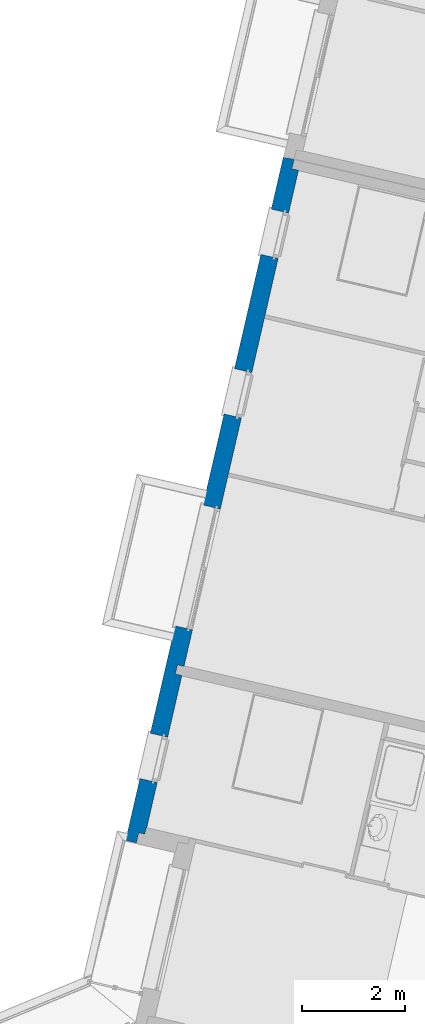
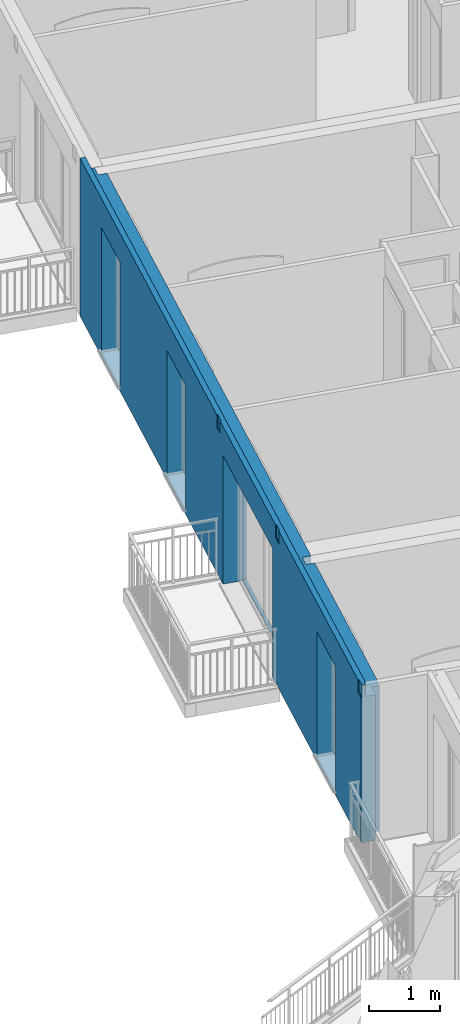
# One storey, part 23 of 90: 1 wall, 4 openings.
"""IFC2X3 building model written with IfcOpenShell, lengths in metres."""

from ifc_helpers import new_model, entity, si_unit, converted_unit, derived_unit, money_unit, direction, frame, origin_with_axes, place, context, subcontext, project, spatial, faceted_brep, material, material_list, type_object, element, save


model = new_model("IFC2X3")

# Units and contexts
model_context = context("Model", 3, precision=1e-05, world=origin_with_axes(), true_north=direction((0.0, 1.0)))
body_context = subcontext(model_context, "Body", "Model", "MODEL_VIEW")
ifc_project = project(units=[si_unit("LENGTHUNIT", "METRE"), si_unit("AREAUNIT", "SQUARE_METRE"), si_unit("VOLUMEUNIT", "CUBIC_METRE"), converted_unit("PLANEANGLEUNIT", "DEGREE", entity("IfcPlaneAngleMeasure", 0.0174532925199), si_unit("PLANEANGLEUNIT", "RADIAN"), dimensions=[0, 0, 0, 0, 0, 0, 0]), si_unit("SOLIDANGLEUNIT", "STERADIAN"), money_unit("EUR"), converted_unit("TIMEUNIT", "Year", entity("IfcTimeMeasure", 31556926.0), si_unit("TIMEUNIT", "SECOND"), dimensions=[0, 0, 1, 0, 0, 0, 0]), si_unit("MASSUNIT", "GRAM", prefix="KILO"), si_unit("THERMODYNAMICTEMPERATUREUNIT", "DEGREE_CELSIUS"), si_unit("LUMINOUSINTENSITYUNIT", "LUMEN"), si_unit("ENERGYUNIT", "JOULE", prefix="MEGA"), derived_unit("THERMALCONDUCTANCEUNIT", [(si_unit("POWERUNIT", "WATT"), 1), (si_unit("LENGTHUNIT", "METRE"), -1), (si_unit("THERMODYNAMICTEMPERATUREUNIT", "KELVIN"), -1)]), derived_unit("SPECIFICHEATCAPACITYUNIT", [(si_unit("ENERGYUNIT", "JOULE"), 1), (si_unit("MASSUNIT", "GRAM", prefix="KILO"), -1), (si_unit("THERMODYNAMICTEMPERATUREUNIT", "KELVIN"), -1)]), derived_unit("MASSDENSITYUNIT", [(si_unit("MASSUNIT", "GRAM", prefix="KILO"), 1), (si_unit("VOLUMEUNIT", "CUBIC_METRE"), -1)])], contexts=[model_context])

# Site, building, storey
site_placement = place(None, origin_with_axes())
site = spatial("IfcSite", under=ifc_project, at=site_placement, Name="Site", CompositionType="ELEMENT")
building_placement = place(site_placement, origin_with_axes())
building = spatial("IfcBuilding", under=site, at=building_placement, Name="Bâtiment", CompositionType="ELEMENT")
storey_placement = place(building_placement, frame((0.0, 0.0, 2.72), z_axis=(0.0, 0.0, 1.0), x_axis=(1.0, 0.0, 0.0)))
storey = spatial("IfcBuildingStorey", under=building, at=storey_placement, Name="R+1", CompositionType="ELEMENT", Elevation=2.72)

# Wall, openings
ifc_material_1 = material(Name="Finition int - Plaque de plâtre")
ifc_material_2 = material(Name="Isolation - Polystyrène extrudé")
ifc_material_3 = material(Name="Bloc ELITHERM")
ifc_material_4 = material(Name="Isolation - Polystyrène expansé")
ifc_material_5 = material(Name="Mortier")
ifc_material_6 = material(Name="Béton cellulaire")
ifc_material_7 = material(Name="Finition ext - Crépis")
ifc_material_list = material_list([ifc_material_1, ifc_material_2, ifc_material_3, ifc_material_4, ifc_material_5, ifc_material_6, ifc_material_7])
wall_type = type_object("IfcWallType", Name="Mur ALKERN + planelle 21 345 x 2720", PredefinedType="USERDEFINED")
wall_placement = place(storey_placement, frame((-16.9185229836, 3.99020048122, 0.0), z_axis=(0.0, 0.0, 1.0), x_axis=(-0.224876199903, -0.974387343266, 0.0)))
wall = element("IfcWall", 1, at=wall_placement, inside=storey, type_object=wall_type, material=ifc_material_list, Name="Mue bloc ALKERN isolé", ObjectType="SOLIDWALL", context=body_context, shape_type="Brep", body=[
    faceted_brep([(13.256602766, 0.34499998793, 0.0), (10.2201355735, 0.34499998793, 0.0), (10.2201355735, 0.34499998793, 2.51000000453), (13.256602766, 0.34499998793, 2.51), (12.3475578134, 0.34499998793, 2.22), (12.3475578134, 0.34499998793, 2.4), (11.4475578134, 0.34499998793, 2.4), (11.4475578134, 0.34499998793, 2.22), (11.4475578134, 0.34499998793, 0.12), (12.3475578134, 0.34499998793, 0.12), (13.256602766, 0.335000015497, 0.0), (10.2201355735, 0.335000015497, 0.0), (10.2201355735, 0.335000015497, 2.51000000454), (13.256602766, 0.335000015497, 2.51), (12.3475578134, 0.335000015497, 2.22), (12.3475578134, 0.335000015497, 2.4), (11.4475578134, 0.335000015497, 2.4), (11.4475578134, 0.335000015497, 2.22), (11.4475578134, 0.335000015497, 0.12), (12.3475578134, 0.335000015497, 0.12)], [[[0, 1, 2, 3], [4, 5, 6, 7, 8, 9]], [[10, 11, 1, 0]], [[2, 1, 11, 12]], [[3, 2, 12, 13]], [[3, 13, 10, 0]], [[5, 4, 14, 15]], [[6, 5, 15, 16]], [[7, 6, 16, 17]], [[7, 17, 18, 8]], [[8, 18, 19, 9]], [[14, 4, 9, 19]], [[13, 12, 11, 10], [15, 14, 19, 18, 17, 16]]]),
    faceted_brep([(0.180000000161, 0.34499998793, 2.50999999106), (10.0401355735, 0.34499998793, 2.51000000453), (10.0401355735, 0.34499998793, 0.0), (0.180000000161, 0.34499998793, 0.0), (9.31319621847, 0.34499998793, 2.22), (9.31319621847, 0.34499998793, 2.4), (6.91319621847, 0.34499998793, 2.4), (6.91319621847, 0.34499998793, 2.22), (6.91319621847, 0.34499998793, 0.02), (9.31319621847, 0.34499998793, 0.02), (5.1028669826, 0.34499998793, 2.22), (5.1028669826, 0.34499998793, 2.4), (4.2028669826, 0.34499998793, 2.4), (4.2028669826, 0.34499998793, 2.22), (4.2028669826, 0.34499998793, 0.12), (5.1028669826, 0.34499998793, 0.12), (1.93277950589, 0.34499998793, 2.22), (1.93277950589, 0.34499998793, 2.4), (1.03277950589, 0.34499998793, 2.4), (1.03277950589, 0.34499998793, 2.22), (1.03277950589, 0.34499998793, 0.12), (1.93277950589, 0.34499998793, 0.12), (0.180000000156, 0.335000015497, 2.50999999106), (10.0401355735, 0.335000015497, 2.51000000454), (10.0401355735, 0.335000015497, 0.0), (0.180000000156, 0.335000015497, 0.0), (9.31319621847, 0.335000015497, 2.22), (9.31319621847, 0.335000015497, 2.4), (6.91319621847, 0.335000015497, 2.4), (6.91319621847, 0.335000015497, 2.22), (6.91319621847, 0.335000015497, 0.02), (9.31319621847, 0.335000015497, 0.02), (5.1028669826, 0.335000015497, 2.22), (5.1028669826, 0.335000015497, 2.4), (4.2028669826, 0.335000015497, 2.4), (4.2028669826, 0.335000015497, 2.22), (4.2028669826, 0.335000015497, 0.12), (5.1028669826, 0.335000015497, 0.12), (1.93277950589, 0.335000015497, 2.22), (1.93277950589, 0.335000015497, 2.4), (1.03277950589, 0.335000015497, 2.4), (1.03277950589, 0.335000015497, 2.22), (1.03277950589, 0.335000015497, 0.12), (1.93277950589, 0.335000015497, 0.12)], [[[0, 1, 2, 3], [4, 5, 6, 7, 8, 9], [10, 11, 12, 13, 14, 15], [16, 17, 18, 19, 20, 21]], [[22, 23, 1, 0]], [[1, 23, 24, 2]], [[3, 2, 24, 25]], [[0, 3, 25, 22]], [[5, 4, 26, 27]], [[6, 5, 27, 28]], [[7, 6, 28, 29]], [[7, 29, 30, 8]], [[8, 30, 31, 9]], [[26, 4, 9, 31]], [[32, 33, 11, 10]], [[33, 34, 12, 11]], [[34, 35, 13, 12]], [[36, 14, 13, 35]], [[37, 15, 14, 36]], [[15, 37, 32, 10]], [[17, 16, 38, 39]], [[18, 17, 39, 40]], [[19, 18, 40, 41]], [[19, 41, 42, 20]], [[20, 42, 43, 21]], [[38, 16, 21, 43]], [[25, 24, 23, 22], [27, 26, 31, 30, 29, 28], [33, 32, 37, 36, 35, 34], [39, 38, 43, 42, 41, 40]]]),
    faceted_brep([(11.4475578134, 0.245, 0.12), (11.4475578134, 0.286, 0.12), (11.4475578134, 0.335000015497, 0.12), (11.4475578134, 0.335000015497, 2.22), (11.4475578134, 0.245, 2.22), (11.4475578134, 0.215000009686, 0.12), (11.4475578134, 0.215000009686, 0.06), (11.4475578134, 0.286, 0.06), (12.3475578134, 0.286, 0.12), (12.3475578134, 0.335000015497, 0.12), (10.2201355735, 0.335000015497, 2.51000000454), (13.3766027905, 0.335000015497, 2.50999999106), (13.3766027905, 0.335000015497, 0.0), (10.2201355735, 0.335000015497, 0.0), (12.3475578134, 0.335000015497, 2.22), (12.3475578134, 0.335000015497, 2.4), (11.4475578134, 0.335000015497, 2.4), (11.4475578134, 0.215, 2.4), (11.4475578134, 0.215, 2.22), (10.2201355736, 0.215000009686, 0.0), (13.3766027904, 0.215000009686, 0.0), (13.3766027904, 0.215000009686, 2.50999999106), (10.2201355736, 0.215000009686, 2.51000000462), (12.3475578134, 0.215, 2.4), (12.3475578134, 0.215, 2.22), (12.3475578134, 0.215000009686, 0.12), (12.3475578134, 0.215000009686, 0.06), (12.3475578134, 0.286, 0.06), (12.3475578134, 0.245, 0.12), (12.3475578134, 0.245, 2.22)], [[[0, 1, 2, 3, 4]], [[1, 0, 5, 6, 7]], [[1, 8, 9, 2]], [[10, 11, 12, 13], [3, 2, 9, 14, 15, 16]], [[17, 18, 4, 3, 16]], [[5, 0, 4, 18]], [[19, 20, 21, 22], [6, 5, 18, 17, 23, 24, 25, 26]], [[6, 26, 27, 7]], [[8, 1, 7, 27]], [[8, 28, 29, 14, 9]], [[22, 21, 11, 10]], [[20, 12, 11, 21]], [[13, 12, 20, 19]], [[19, 22, 10, 13]], [[29, 24, 23, 15, 14]], [[15, 23, 17, 16]], [[28, 25, 24, 29]], [[28, 8, 27, 26, 25]]]),
    faceted_brep([(1.03277950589, 0.245, 0.12), (1.03277950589, 0.286, 0.12), (1.03277950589, 0.335000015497, 0.12), (1.03277950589, 0.335000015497, 2.22), (1.03277950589, 0.245, 2.22), (1.03277950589, 0.215000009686, 0.12), (1.03277950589, 0.215, 0.06), (1.03277950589, 0.286, 0.06), (1.93277950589, 0.286, 0.12), (1.93277950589, 0.335000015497, 0.12), (10.0401355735, 0.335000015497, 0.0), (0.180000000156, 0.335000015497, 0.0), (0.180000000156, 0.335000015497, 2.50999999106), (10.0401355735, 0.335000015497, 2.51000000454), (6.91319621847, 0.335000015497, 2.22), (6.91319621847, 0.335000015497, 0.02), (9.31319621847, 0.335000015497, 0.02), (9.31319621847, 0.335000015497, 2.22), (9.31319621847, 0.335000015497, 2.4), (6.91319621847, 0.335000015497, 2.4), (4.2028669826, 0.335000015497, 2.22), (4.2028669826, 0.335000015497, 0.12), (5.1028669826, 0.335000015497, 0.12), (5.1028669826, 0.335000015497, 2.22), (5.1028669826, 0.335000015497, 2.4), (4.2028669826, 0.335000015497, 2.4), (1.93277950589, 0.335000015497, 2.22), (1.93277950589, 0.335000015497, 2.4), (1.03277950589, 0.335000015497, 2.4), (1.03277950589, 0.215, 2.4), (1.03277950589, 0.215, 2.22), (6.91319621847, 0.215000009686, 0.0), (6.91319621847, 0.215000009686, 0.02), (6.91319621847, 0.215, 2.22), (6.91319621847, 0.215, 2.4), (9.31319621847, 0.215, 2.4), (9.31319621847, 0.215, 2.22), (9.31319621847, 0.215000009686, 0.02), (9.31319621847, 0.215000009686, 0.0), (10.0401355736, 0.215000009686, 0.0), (10.0401355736, 0.215000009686, 2.51000000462), (0.1800000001, 0.215000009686, 2.50999999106), (0.1800000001, 0.215000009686, 0.0), (5.1028669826, 0.215, 2.4), (5.1028669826, 0.215, 2.22), (5.1028669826, 0.215000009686, 0.12), (5.1028669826, 0.215, 0.06), (4.2028669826, 0.215, 0.06), (4.2028669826, 0.215000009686, 0.12), (4.2028669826, 0.215, 2.22), (4.2028669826, 0.215, 2.4), (1.93277950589, 0.215, 2.4), (1.93277950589, 0.215, 2.22), (1.93277950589, 0.215000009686, 0.12), (1.93277950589, 0.215, 0.06), (1.93277950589, 0.286, 0.06), (1.93277950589, 0.245, 0.12), (1.93277950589, 0.245, 2.22), (6.91319621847, 0.286, 0.0), (9.31319621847, 0.286, 0.0), (6.91319621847, 0.286, 0.02), (6.91319621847, 0.245, 2.22), (6.91319621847, 0.245, 0.02), (9.31319621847, 0.286, 0.02), (9.31319621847, 0.245, 0.02), (9.31319621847, 0.245, 2.22), (4.2028669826, 0.245, 2.22), (4.2028669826, 0.245, 0.12), (4.2028669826, 0.286, 0.12), (5.1028669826, 0.286, 0.12), (5.1028669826, 0.245, 0.12), (5.1028669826, 0.245, 2.22), (5.1028669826, 0.286, 0.06), (4.2028669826, 0.286, 0.06)], [[[0, 1, 2, 3, 4]], [[1, 0, 5, 6, 7]], [[1, 8, 9, 2]], [[10, 11, 12, 13], [14, 15, 16, 17, 18, 19], [20, 21, 22, 23, 24, 25], [3, 2, 9, 26, 27, 28]], [[29, 30, 4, 3, 28]], [[5, 0, 4, 30]], [[31, 32, 33, 34, 35, 36, 37, 38, 39, 40, 41, 42], [43, 44, 45, 46, 47, 48, 49, 50], [6, 5, 30, 29, 51, 52, 53, 54]], [[6, 54, 55, 7]], [[8, 1, 7, 55]], [[8, 56, 57, 26, 9]], [[58, 31, 42, 11, 10, 39, 38, 59]], [[42, 41, 12, 11]], [[13, 12, 41, 40]], [[39, 10, 13, 40]], [[60, 15, 14, 61, 62]], [[60, 63, 16, 15]], [[64, 65, 17, 16, 63]], [[36, 35, 18, 17, 65]], [[18, 35, 34, 19]], [[33, 61, 14, 19, 34]], [[20, 66, 67, 68, 21]], [[68, 69, 22, 21]], [[23, 22, 69, 70, 71]], [[24, 23, 71, 44, 43]], [[24, 43, 50, 25]], [[20, 25, 50, 49, 66]], [[57, 52, 51, 27, 26]], [[27, 51, 29, 28]], [[62, 32, 31, 58, 60]], [[32, 62, 61, 33]], [[64, 37, 36, 65]], [[63, 59, 38, 37, 64]], [[70, 45, 44, 71]], [[46, 45, 70, 69, 72]], [[47, 46, 72, 73]], [[47, 73, 68, 67, 48]], [[48, 67, 66, 49]], [[56, 53, 52, 57]], [[56, 8, 55, 54, 53]], [[63, 60, 58, 59]], [[69, 68, 73, 72]]]),
    faceted_brep([(1.03277950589, 0.015, 0.12), (1.03277950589, 0.214999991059, 0.12), (1.03277950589, 0.214999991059, 2.22), (1.03277950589, 0.015, 2.22), (1.03277950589, 0.214999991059, 0.06), (1.03277950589, 0.015, 0.06), (1.00214503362e-10, 0.214999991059, 0.0), (1.00212727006e-10, 0.214999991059, 2.50999999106), (13.5766027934, 0.214999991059, 2.50999999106), (13.5766027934, 0.214999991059, 0.0), (9.31319621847, 0.214999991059, 0.0), (9.31319621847, 0.214999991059, 0.02), (9.31319621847, 0.214999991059, 2.22), (6.91319621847, 0.214999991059, 2.22), (6.91319621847, 0.214999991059, 0.02), (6.91319621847, 0.214999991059, 0.0), (5.1028669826, 0.214999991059, 0.06), (5.1028669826, 0.214999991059, 0.12), (5.1028669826, 0.214999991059, 2.22), (4.2028669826, 0.214999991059, 2.22), (4.2028669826, 0.214999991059, 0.12), (4.2028669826, 0.214999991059, 0.06), (12.3475578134, 0.214999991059, 0.06), (12.3475578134, 0.214999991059, 0.12), (12.3475578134, 0.214999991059, 2.22), (11.4475578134, 0.214999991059, 2.22), (11.4475578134, 0.214999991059, 0.12), (11.4475578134, 0.214999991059, 0.06), (1.93277950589, 0.214999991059, 0.06), (1.93277950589, 0.214999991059, 0.12), (1.93277950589, 0.214999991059, 2.22), (1.93277950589, 0.015, 2.22), (6.91319621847, 0.015, 2.22), (9.31319621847, 0.015, 2.22), (9.31319621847, 0.015, 0.02), (9.31319621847, 0.015, 0.0), (13.5766027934, 0.015, 0.0), (13.5766027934, 0.015, 2.50999999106), (0.0, 0.015, 2.50999999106), (0.0, 0.015, 0.0), (6.91319621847, 0.015, 0.0), (6.91319621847, 0.015, 0.02), (4.2028669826, 0.015, 0.06), (4.2028669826, 0.015, 0.12), (4.2028669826, 0.015, 2.22), (5.1028669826, 0.015, 2.22), (5.1028669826, 0.015, 0.12), (5.1028669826, 0.015, 0.06), (11.4475578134, 0.015, 0.06), (11.4475578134, 0.015, 0.12), (11.4475578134, 0.015, 2.22), (12.3475578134, 0.015, 2.22), (12.3475578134, 0.015, 0.12), (12.3475578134, 0.015, 0.06), (1.93277950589, 0.015, 0.12), (1.93277950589, 0.015, 0.06), (0.0, 0.0829999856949, 2.50999999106), (13.5766027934, 0.0829999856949, 2.50999999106)], [[[0, 1, 2, 3]], [[4, 1, 0, 5]], [[6, 7, 8, 9, 10, 11, 12, 13, 14, 15], [16, 17, 18, 19, 20, 21], [22, 23, 24, 25, 26, 27], [28, 29, 30, 2, 1, 4]], [[30, 31, 3, 2]], [[32, 33, 34, 35, 36, 37, 38, 39, 40, 41], [42, 43, 44, 45, 46, 47], [48, 49, 50, 51, 52, 53], [5, 0, 3, 31, 54, 55]], [[28, 4, 5, 55]], [[56, 7, 6, 39, 38]], [[57, 8, 7, 56]], [[8, 57, 37, 36, 9]], [[9, 36, 35, 10]], [[10, 35, 34, 11]], [[33, 12, 11, 34]], [[32, 13, 12, 33]], [[13, 32, 41, 14]], [[41, 40, 15, 14]], [[39, 6, 15, 40]], [[46, 17, 16, 47]], [[17, 46, 45, 18]], [[18, 45, 44, 19]], [[43, 20, 19, 44]], [[21, 20, 43, 42]], [[16, 21, 42, 47]], [[22, 53, 52, 23]], [[51, 24, 23, 52]], [[50, 25, 24, 51]], [[25, 50, 49, 26]], [[49, 48, 27, 26]], [[48, 53, 22, 27]], [[54, 29, 28, 55]], [[29, 54, 31, 30]], [[37, 57, 56, 38]]]),
    faceted_brep([(0.0, 0.0630000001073, 2.72000000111), (13.5286027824, 0.0630000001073, 2.72), (13.5286027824, 0.0830000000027, 2.72), (0.0, 0.0829999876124, 2.72000000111), (0.0, 0.0630000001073, 2.51999998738), (13.5286027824, 0.0630000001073, 2.51999999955), (13.5286027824, 0.0830000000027, 2.51999999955), (0.0, 0.0829999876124, 2.51999998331)], [[[0, 1, 2, 3]], [[4, 5, 1, 0]], [[5, 6, 2, 1]], [[3, 2, 6, 7]], [[7, 4, 0, 3]], [[7, 6, 5, 4]]]),
    faceted_brep([(13.5766027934, 0.015, 2.51999999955), (13.5766027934, 0.083, 2.51999999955), (0.0, 0.083, 2.52), (0.0, 0.015, 2.52), (13.5766027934, 0.083, 2.50999999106), (13.5766027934, 0.015, 2.50999999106), (0.0, 0.083, 2.51), (0.0, 0.015, 2.51)], [[[0, 1, 2, 3]], [[4, 1, 0, 5]], [[1, 4, 6, 2]], [[7, 3, 2, 6]], [[5, 0, 3, 7]], [[4, 5, 7, 6]]]),
    faceted_brep([(13.5766027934, 0.015, 2.72), (13.5766027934, 0.0629999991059, 2.72), (0.0, 0.0629999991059, 2.72000000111), (0.0, 0.015, 2.72000000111), (13.5766027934, 0.0629999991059, 2.51999999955), (13.5766027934, 0.015, 2.51999999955), (0.0, 0.0629999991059, 2.51999998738), (0.0, 0.015, 2.51999999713)], [[[0, 1, 2, 3]], [[4, 1, 0, 5]], [[1, 4, 6, 2]], [[7, 3, 2, 6]], [[5, 0, 3, 7]], [[4, 5, 7, 6]]]),
    faceted_brep([(1.03277950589, 0.0, 0.12), (1.03277950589, 0.0149999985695, 0.12), (1.03277950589, 0.0149999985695, 2.22), (1.03277950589, 0.0, 2.22), (1.03277950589, 0.0149999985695, 0.06), (1.03277950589, 0.0, 0.06), (13.4316027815, 0.0149999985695, 2.51), (13.4466027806, 0.0149999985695, 2.51), (13.4663437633, 0.0149999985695, 2.51), (13.5916027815, 0.0149999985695, 2.51), (13.5916027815, 0.0149999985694, 0.00999999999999), (13.5816222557, 0.0149999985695, 0.0206237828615), (13.4415833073, 0.0149999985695, 0.0293762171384), (13.4316027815, 0.0149999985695, 0.02), (13.4316027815, 0.0149999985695, 0.0), (9.61319621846, 0.0149999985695, 0.0), (9.61319621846, 0.0149999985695, 0.01), (9.60321569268, 0.0149999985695, 0.0193762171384), (9.46317674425, 0.0149999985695, 0.0106237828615), (9.45319621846, 0.0149999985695, 0.0), (9.31319621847, 0.014999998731, 0.0), (9.31319621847, 0.0149999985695, 0.02), (9.31319621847, 0.0149999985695, 2.22), (6.91319621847, 0.0149999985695, 2.22), (6.91319621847, 0.0149999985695, 0.02), (6.91319621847, 0.0150000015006, 0.0), (6.77319621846, 0.0150000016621, 0.0), (6.76321569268, 0.0150000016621, 0.0106237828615), (6.62317674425, 0.0150000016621, 0.0193762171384), (6.61319621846, 0.0150000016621, 0.01), (6.61319621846, 0.0150000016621, 0.0), (0.0, 0.0149999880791, 0.0), (0.0, 0.0149999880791, 2.52), (0.0, 0.0149999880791, 2.72000000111), (6.61319621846, 0.0150000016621, 2.72), (6.61319621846, 0.0150000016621, 2.51999999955), (6.61319621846, 0.0150000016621, 2.50999999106), (6.61319621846, 0.0150000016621, 2.50872065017), (6.61319621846, 0.0150000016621, 2.5), (6.62819621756, 0.0150000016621, 2.5), (6.64793720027, 0.0150000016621, 2.5), (6.77319621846, 0.0150000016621, 2.5), (6.77319621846, 0.0150000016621, 2.50872065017), (6.77319621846, 0.0150000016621, 2.50999999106), (6.77319621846, 0.0150000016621, 2.51999999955), (6.77319621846, 0.0150000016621, 2.72), (9.45319621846, 0.0149999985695, 2.72), (9.45319621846, 0.0149999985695, 2.51999999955), (9.45319621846, 0.0149999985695, 2.50999999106), (9.45319621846, 0.0149999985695, 2.50872065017), (9.45319621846, 0.0149999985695, 2.5), (9.57845523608, 0.0149999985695, 2.5), (9.59819621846, 0.0149999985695, 2.5), (9.61319621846, 0.0149999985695, 2.5), (9.61319621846, 0.0149999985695, 2.50872065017), (9.61319621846, 0.0149999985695, 2.50999999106), (9.61319621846, 0.0149999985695, 2.51999999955), (9.61319621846, 0.0149999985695, 2.72), (13.4316027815, 0.0149999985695, 2.72), (13.4316027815, 0.0149999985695, 2.51999999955), (13.4316027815, 0.0149999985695, 2.51872065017), (5.1028669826, 0.0149999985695, 0.06), (5.1028669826, 0.0149999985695, 0.12), (5.1028669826, 0.0149999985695, 2.22), (4.2028669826, 0.0149999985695, 2.22), (4.2028669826, 0.0149999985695, 0.12), (4.2028669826, 0.0149999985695, 0.06), (12.3475578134, 0.0149999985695, 0.06), (12.3475578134, 0.0149999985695, 0.12), (12.3475578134, 0.0149999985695, 2.22), (11.4475578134, 0.0149999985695, 2.22), (11.4475578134, 0.0149999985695, 0.12), (11.4475578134, 0.0149999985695, 0.06), (1.93277950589, 0.0149999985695, 0.06), (1.93277950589, 0.0149999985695, 0.12), (1.93277950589, 0.0149999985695, 2.22), (1.93277950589, 0.0, 2.22), (6.77319621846, 0.0, 2.50999999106), (6.77319621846, 0.0, 2.50872065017), (6.77319621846, 0.0, 2.5), (6.64793720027, 0.0, 2.5), (6.62819621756, 0.0, 2.5), (6.61319621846, 0.0, 2.5), (6.61319621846, 0.0, 2.50872065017), (6.61319621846, 0.0, 2.50999999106), (6.61319621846, 0.0, 2.51999999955), (6.61319621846, 2.41239916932e-10, 2.72), (0.0, 4.66620520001e-10, 2.72000000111), (0.0, 4.66620520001e-10, 2.52), (0.0, 0.0, 0.0), (6.61319621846, 0.0, 0.0), (6.61319621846, 0.0, 0.01), (6.62317674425, 0.0, 0.0193762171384), (6.76321569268, 0.0, 0.0106237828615), (6.77319621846, 0.0, 0.0), (6.91319621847, 0.0, 0.0), (6.91319621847, 0.0, 0.02), (6.91319621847, 0.0, 2.22), (9.31319621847, 0.0, 2.22), (9.31319621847, 0.0, 0.02), (9.31319621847, 0.0, 0.0), (9.45319621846, 0.0, 0.0), (9.46317674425, 0.0, 0.0106237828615), (9.60321569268, 0.0, 0.0193762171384), (9.61319621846, 0.0, 0.01), (9.61319621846, 0.0, 0.0), (13.4316027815, 0.0, 0.0), (13.4316027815, 0.0, 0.02), (13.4415833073, 0.0, 0.0293762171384), (13.5816222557, 0.0, 0.0206237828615), (13.5916027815, 0.0, 0.00999999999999), (13.5916027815, 0.0, 2.51), (13.4663437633, 0.0, 2.51), (13.4466027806, 0.0, 2.51), (13.4316027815, 0.0, 2.51), (13.4316027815, 0.0, 2.51872065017), (13.4316027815, 0.0, 2.51999999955), (13.4316027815, 0.0, 2.72), (9.61319621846, 1.38996369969e-10, 2.72), (9.61319621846, 0.0, 2.51999999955), (9.61319621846, 0.0, 2.50999999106), (9.61319621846, 0.0, 2.50872065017), (9.61319621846, 0.0, 2.5), (9.59819621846, 0.0, 2.5), (9.57845523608, 0.0, 2.5), (9.45319621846, 0.0, 2.5), (9.45319621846, 0.0, 2.50872065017), (9.45319621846, 0.0, 2.50999999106), (9.45319621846, 0.0, 2.51999999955), (9.45319621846, 1.44449785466e-10, 2.72), (6.77319621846, 2.35786501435e-10, 2.72), (6.77319621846, 0.0, 2.51999999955), (4.2028669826, 0.0, 0.06), (4.2028669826, 0.0, 0.12), (4.2028669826, 0.0, 2.22), (5.1028669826, 0.0, 2.22), (5.1028669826, 0.0, 0.12), (5.1028669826, 0.0, 0.06), (11.4475578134, 2.41239916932e-10, 0.06), (11.4475578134, 0.0, 0.12), (11.4475578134, 0.0, 2.22), (12.3475578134, 0.0, 2.22), (12.3475578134, 0.0, 0.12), (12.3475578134, 2.41239916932e-10, 0.06), (1.93277950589, 0.0, 0.12), (1.93277950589, 0.0, 0.06)], [[[0, 1, 2, 3]], [[4, 1, 0, 5]], [[6, 7, 8, 9, 10, 11, 12, 13, 14, 15, 16, 17, 18, 19, 20, 21, 22, 23, 24, 25, 26, 27, 28, 29, 30, 31, 32, 33, 34, 35, 36, 37, 38, 39, 40, 41, 42, 43, 44, 45, 46, 47, 48, 49, 50, 51, 52, 53, 54, 55, 56, 57, 58, 59, 60], [61, 62, 63, 64, 65, 66], [67, 68, 69, 70, 71, 72], [73, 74, 75, 2, 1, 4]], [[75, 76, 3, 2]], [[77, 78, 79, 80, 81, 82, 83, 84, 85, 86, 87, 88, 89, 90, 91, 92, 93, 94, 95, 96, 97, 98, 99, 100, 101, 102, 103, 104, 105, 106, 107, 108, 109, 110, 111, 112, 113, 114, 115, 116, 117, 118, 119, 120, 121, 122, 123, 124, 125, 126, 127, 128, 129, 130, 131], [132, 133, 134, 135, 136, 137], [138, 139, 140, 141, 142, 143], [5, 0, 3, 76, 144, 145]], [[73, 4, 5, 145]], [[114, 113, 7, 6]], [[113, 112, 8, 7]], [[111, 9, 8, 112]], [[10, 9, 111, 110]], [[109, 11, 10, 110]], [[108, 12, 11, 109]], [[107, 13, 12, 108]], [[106, 14, 13, 107]], [[15, 14, 106, 105]], [[104, 16, 15, 105]], [[103, 17, 16, 104]], [[102, 18, 17, 103]], [[102, 101, 19, 18]], [[19, 101, 100, 20]], [[20, 100, 99, 21]], [[98, 22, 21, 99]], [[97, 23, 22, 98]], [[23, 97, 96, 24]], [[96, 95, 25, 24]], [[94, 26, 25, 95]], [[93, 27, 26, 94]], [[92, 28, 27, 93]], [[91, 29, 28, 92]], [[90, 30, 29, 91]], [[31, 30, 90, 89]], [[31, 89, 88, 32]], [[87, 33, 32, 88]], [[87, 86, 34, 33]], [[85, 35, 34, 86]], [[36, 35, 85, 84]], [[37, 36, 84, 83]], [[38, 37, 83, 82]], [[82, 81, 39, 38]], [[81, 80, 40, 39]], [[79, 41, 40, 80]], [[79, 78, 42, 41]], [[78, 77, 43, 42]], [[77, 131, 44, 43]], [[131, 130, 45, 44]], [[130, 129, 46, 45]], [[128, 47, 46, 129]], [[48, 47, 128, 127]], [[49, 48, 127, 126]], [[50, 49, 126, 125]], [[125, 124, 51, 50]], [[124, 123, 52, 51]], [[122, 53, 52, 123]], [[122, 121, 54, 53]], [[121, 120, 55, 54]], [[120, 119, 56, 55]], [[119, 118, 57, 56]], [[118, 117, 58, 57]], [[116, 59, 58, 117]], [[60, 59, 116, 115]], [[6, 60, 115, 114]], [[136, 62, 61, 137]], [[62, 136, 135, 63]], [[63, 135, 134, 64]], [[133, 65, 64, 134]], [[66, 65, 133, 132]], [[61, 66, 132, 137]], [[67, 143, 142, 68]], [[141, 69, 68, 142]], [[140, 70, 69, 141]], [[70, 140, 139, 71]], [[139, 138, 72, 71]], [[138, 143, 67, 72]], [[144, 74, 73, 145]], [[74, 144, 76, 75]]]),
])
opening_1_placement = place(wall_placement, frame((8.11319621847, 0.0, 0.02), z_axis=(0.0, 0.0, 1.0), x_axis=(1.0, 0.0, 0.0)))
element("IfcOpeningElement", 2, at=opening_1_placement, cuts=wall, Name="MEN 47", context=body_context, shape_type="Brep", body=[
    faceted_brep([(-1.2, 0.83499998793, 0.0), (1.2, 0.83499998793, 0.0), (1.2, 0.245, 0.0), (-1.2, 0.245, 0.0), (-1.2, 0.83499998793, 2.2), (1.2, 0.83499998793, 2.2), (1.2, 0.245, 2.2), (-1.2, 0.245, 2.2)], [[[0, 1, 2, 3]], [[0, 4, 5, 1]], [[1, 5, 6, 2]], [[3, 2, 6, 7]], [[4, 0, 3, 7]], [[5, 4, 7, 6]]]),
    faceted_brep([(-1.2, -0.34499998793, 0.0), (-1.2, -0.34499998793, 2.2), (-1.2, 0.245, 2.2), (-1.2, 0.245, 0.0), (1.2, -0.34499998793, 0.0), (1.2, -0.34499998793, 2.2), (1.2, 0.245, 2.2), (1.2, 0.245, 0.0)], [[[0, 1, 2, 3]], [[0, 4, 5, 1]], [[1, 5, 6, 2]], [[3, 2, 6, 7]], [[4, 0, 3, 7]], [[5, 4, 7, 6]]]),
    faceted_brep([(-1.2, -0.34499998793, 0.0), (-1.2, -0.34499998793, 2.2), (-1.2, 0.245, 2.2), (-1.2, 0.245, 0.0), (1.2, -0.34499998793, 0.0), (1.2, -0.34499998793, 2.2), (1.2, 0.245, 2.2), (1.2, 0.245, 0.0)], [[[0, 1, 2, 3]], [[0, 4, 5, 1]], [[1, 5, 6, 2]], [[3, 2, 6, 7]], [[4, 0, 3, 7]], [[5, 4, 7, 6]]]),
    faceted_brep([(-1.2, 0.80499998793, 2.2), (1.2, 0.80499998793, 2.2), (1.2, 0.215, 2.2), (-1.2, 0.215, 2.2), (-1.2, 0.80499998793, 2.38), (1.2, 0.80499998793, 2.38), (1.2, 0.215, 2.38), (-1.2, 0.215, 2.38)], [[[0, 1, 2, 3]], [[0, 4, 5, 1]], [[1, 5, 6, 2]], [[3, 2, 6, 7]], [[4, 0, 3, 7]], [[5, 4, 7, 6]]]),
    faceted_brep([(-1.2, -0.30399998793, 0.0), (1.2, -0.30399998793, 0.0), (1.2, 0.286, 0.0), (-1.2, 0.286, 0.0), (-1.2, -0.30399998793, -0.06), (1.2, -0.30399998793, -0.06), (1.2, 0.286, -0.06), (-1.2, 0.286, -0.06)], [[[0, 1, 2, 3]], [[0, 4, 5, 1]], [[1, 5, 6, 2]], [[3, 2, 6, 7]], [[4, 0, 3, 7]], [[5, 4, 7, 6]]]),
])
opening_2_placement = place(wall_placement, frame((4.6528669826, 0.0, 0.12), z_axis=(0.0, 0.0, 1.0), x_axis=(1.0, 0.0, 0.0)))
element("IfcOpeningElement", 3, at=opening_2_placement, cuts=wall, Name="MEN 46", context=body_context, shape_type="Brep", body=[
    faceted_brep([(0.45, 0.245, 0.0), (-0.45, 0.245, 0.0), (-0.45, 0.83499998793, 0.0), (0.45, 0.83499998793, 0.0), (0.45, 0.245, 2.1), (-0.45, 0.245, 2.1), (-0.45, 0.83499998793, 2.1), (0.45, 0.83499998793, 2.1)], [[[0, 1, 2, 3]], [[0, 4, 5, 1]], [[1, 5, 6, 2]], [[3, 2, 6, 7]], [[4, 0, 3, 7]], [[5, 4, 7, 6]]]),
    faceted_brep([(0.45, 0.245, 0.0), (0.45, 0.245, 2.1), (0.45, -0.34499998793, 2.1), (0.45, -0.34499998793, 0.0), (-0.45, 0.245, 0.0), (-0.45, 0.245, 2.1), (-0.45, -0.34499998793, 2.1), (-0.45, -0.34499998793, 0.0)], [[[0, 1, 2, 3]], [[0, 4, 5, 1]], [[1, 5, 6, 2]], [[3, 2, 6, 7]], [[4, 0, 3, 7]], [[5, 4, 7, 6]]]),
    faceted_brep([(0.45, 0.245, 0.0), (0.45, 0.245, 2.1), (0.45, -0.34499998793, 2.1), (0.45, -0.34499998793, 0.0), (-0.45, 0.245, 0.0), (-0.45, 0.245, 2.1), (-0.45, -0.34499998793, 2.1), (-0.45, -0.34499998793, 0.0)], [[[0, 1, 2, 3]], [[0, 4, 5, 1]], [[1, 5, 6, 2]], [[3, 2, 6, 7]], [[4, 0, 3, 7]], [[5, 4, 7, 6]]]),
    faceted_brep([(0.45, 0.215, 2.1), (-0.45, 0.215, 2.1), (-0.45, 0.80499998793, 2.1), (0.45, 0.80499998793, 2.1), (0.45, 0.215, 2.28), (-0.45, 0.215, 2.28), (-0.45, 0.80499998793, 2.28), (0.45, 0.80499998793, 2.28)], [[[0, 1, 2, 3]], [[0, 4, 5, 1]], [[1, 5, 6, 2]], [[3, 2, 6, 7]], [[4, 0, 3, 7]], [[5, 4, 7, 6]]]),
    faceted_brep([(0.45, 0.286, 0.0), (-0.45, 0.286, 0.0), (-0.45, -0.30399998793, 0.0), (0.45, -0.30399998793, 0.0), (0.45, 0.286, -0.06), (-0.45, 0.286, -0.06), (-0.45, -0.30399998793, -0.06), (0.45, -0.30399998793, -0.06)], [[[0, 1, 2, 3]], [[0, 4, 5, 1]], [[1, 5, 6, 2]], [[3, 2, 6, 7]], [[4, 0, 3, 7]], [[5, 4, 7, 6]]]),
])
opening_3_placement = place(wall_placement, frame((11.8975578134, 0.0, 0.12), z_axis=(0.0, 0.0, 1.0), x_axis=(1.0, 0.0, 0.0)))
element("IfcOpeningElement", 4, at=opening_3_placement, cuts=wall, Name="MEN 48", context=body_context, shape_type="Brep", body=[
    faceted_brep([(-0.45, 0.83499998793, 0.0), (0.45, 0.83499998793, 0.0), (0.45, 0.245, 0.0), (-0.45, 0.245, 0.0), (-0.45, 0.83499998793, 2.1), (0.45, 0.83499998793, 2.1), (0.45, 0.245, 2.1), (-0.45, 0.245, 2.1)], [[[0, 1, 2, 3]], [[0, 4, 5, 1]], [[1, 5, 6, 2]], [[3, 2, 6, 7]], [[4, 0, 3, 7]], [[5, 4, 7, 6]]]),
    faceted_brep([(-0.45, -0.34499998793, 0.0), (-0.45, -0.34499998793, 2.1), (-0.45, 0.245, 2.1), (-0.45, 0.245, 0.0), (0.45, -0.34499998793, 0.0), (0.45, -0.34499998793, 2.1), (0.45, 0.245, 2.1), (0.45, 0.245, 0.0)], [[[0, 1, 2, 3]], [[0, 4, 5, 1]], [[1, 5, 6, 2]], [[3, 2, 6, 7]], [[4, 0, 3, 7]], [[5, 4, 7, 6]]]),
    faceted_brep([(-0.45, -0.34499998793, 0.0), (-0.45, -0.34499998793, 2.1), (-0.45, 0.245, 2.1), (-0.45, 0.245, 0.0), (0.45, -0.34499998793, 0.0), (0.45, -0.34499998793, 2.1), (0.45, 0.245, 2.1), (0.45, 0.245, 0.0)], [[[0, 1, 2, 3]], [[0, 4, 5, 1]], [[1, 5, 6, 2]], [[3, 2, 6, 7]], [[4, 0, 3, 7]], [[5, 4, 7, 6]]]),
    faceted_brep([(-0.45, 0.80499998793, 2.1), (0.45, 0.80499998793, 2.1), (0.45, 0.215, 2.1), (-0.45, 0.215, 2.1), (-0.45, 0.80499998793, 2.28), (0.45, 0.80499998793, 2.28), (0.45, 0.215, 2.28), (-0.45, 0.215, 2.28)], [[[0, 1, 2, 3]], [[0, 4, 5, 1]], [[1, 5, 6, 2]], [[3, 2, 6, 7]], [[4, 0, 3, 7]], [[5, 4, 7, 6]]]),
    faceted_brep([(-0.45, -0.30399998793, 0.0), (0.45, -0.30399998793, 0.0), (0.45, 0.286, 0.0), (-0.45, 0.286, 0.0), (-0.45, -0.30399998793, -0.06), (0.45, -0.30399998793, -0.06), (0.45, 0.286, -0.06), (-0.45, 0.286, -0.06)], [[[0, 1, 2, 3]], [[0, 4, 5, 1]], [[1, 5, 6, 2]], [[3, 2, 6, 7]], [[4, 0, 3, 7]], [[5, 4, 7, 6]]]),
])
opening_4_placement = place(wall_placement, frame((1.48277950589, 0.0, 0.12), z_axis=(0.0, 0.0, 1.0), x_axis=(1.0, 0.0, 0.0)))
element("IfcOpeningElement", 5, at=opening_4_placement, cuts=wall, Name="MEN 45", context=body_context, shape_type="Brep", body=[
    faceted_brep([(-0.45, 0.83499998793, 0.0), (0.45, 0.83499998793, 0.0), (0.45, 0.245, 0.0), (-0.45, 0.245, 0.0), (-0.45, 0.83499998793, 2.1), (0.45, 0.83499998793, 2.1), (0.45, 0.245, 2.1), (-0.45, 0.245, 2.1)], [[[0, 1, 2, 3]], [[0, 4, 5, 1]], [[1, 5, 6, 2]], [[3, 2, 6, 7]], [[4, 0, 3, 7]], [[5, 4, 7, 6]]]),
    faceted_brep([(-0.45, -0.34499998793, 0.0), (-0.45, -0.34499998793, 2.1), (-0.45, 0.245, 2.1), (-0.45, 0.245, 0.0), (0.45, -0.34499998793, 0.0), (0.45, -0.34499998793, 2.1), (0.45, 0.245, 2.1), (0.45, 0.245, 0.0)], [[[0, 1, 2, 3]], [[0, 4, 5, 1]], [[1, 5, 6, 2]], [[3, 2, 6, 7]], [[4, 0, 3, 7]], [[5, 4, 7, 6]]]),
    faceted_brep([(-0.45, -0.34499998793, 0.0), (-0.45, -0.34499998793, 2.1), (-0.45, 0.245, 2.1), (-0.45, 0.245, 0.0), (0.45, -0.34499998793, 0.0), (0.45, -0.34499998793, 2.1), (0.45, 0.245, 2.1), (0.45, 0.245, 0.0)], [[[0, 1, 2, 3]], [[0, 4, 5, 1]], [[1, 5, 6, 2]], [[3, 2, 6, 7]], [[4, 0, 3, 7]], [[5, 4, 7, 6]]]),
    faceted_brep([(-0.45, 0.80499998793, 2.1), (0.45, 0.80499998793, 2.1), (0.45, 0.215, 2.1), (-0.45, 0.215, 2.1), (-0.45, 0.80499998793, 2.28), (0.45, 0.80499998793, 2.28), (0.45, 0.215, 2.28), (-0.45, 0.215, 2.28)], [[[0, 1, 2, 3]], [[0, 4, 5, 1]], [[1, 5, 6, 2]], [[3, 2, 6, 7]], [[4, 0, 3, 7]], [[5, 4, 7, 6]]]),
    faceted_brep([(-0.45, -0.30399998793, 0.0), (0.45, -0.30399998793, 0.0), (0.45, 0.286, 0.0), (-0.45, 0.286, 0.0), (-0.45, -0.30399998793, -0.06), (0.45, -0.30399998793, -0.06), (0.45, 0.286, -0.06), (-0.45, 0.286, -0.06)], [[[0, 1, 2, 3]], [[0, 4, 5, 1]], [[1, 5, 6, 2]], [[3, 2, 6, 7]], [[4, 0, 3, 7]], [[5, 4, 7, 6]]]),
])

save(model, "model.ifc")
